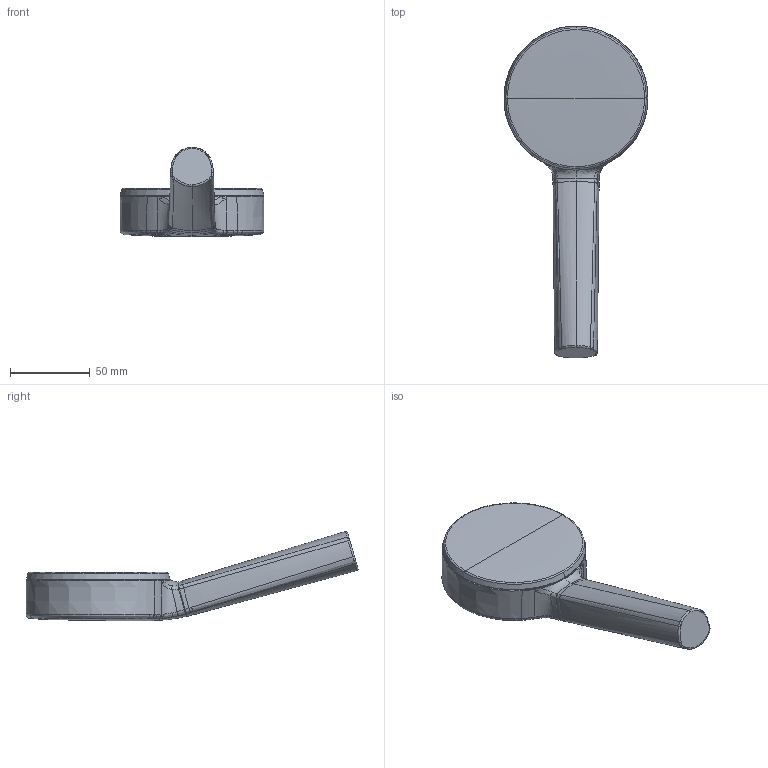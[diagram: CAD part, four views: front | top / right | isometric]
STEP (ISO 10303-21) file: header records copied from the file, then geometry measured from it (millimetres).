
FILE_DESCRIPTION (( 'STEP AP203' ), '1' );
FILE_NAME ('242601(2025).STEP', '2024-12-03T12:13:34', ( '' ), ( '' ), 'SwSTEP 2.0', 'SolidWorks 2024', '' );
FILE_SCHEMA (( 'CONFIG_CONTROL_DESIGN' ));
Length unit declared in the file: millimetre
Products named in the file (1): 242601(2025)
Bounding box: 90.15 x 207.85 x 55.88 mm (x, y, z)
Volume: 254987.9 mm3; surface area: 38315.7 mm2
Topology: 1 solids, 1 shells, 125 faces, 294 edges, 171 vertices
Faces by surface type: bspline 114, cylinder 6, plane 3, cone 2
Entity records: 12855 total; most frequent: CARTESIAN_POINT 10745, ORIENTED_EDGE 584, EDGE_CURVE 292, B_SPLINE_CURVE_WITH_KNOTS 181, DIRECTION 179, VERTEX_POINT 171, EDGE_LOOP 127, ADVANCED_FACE 125
